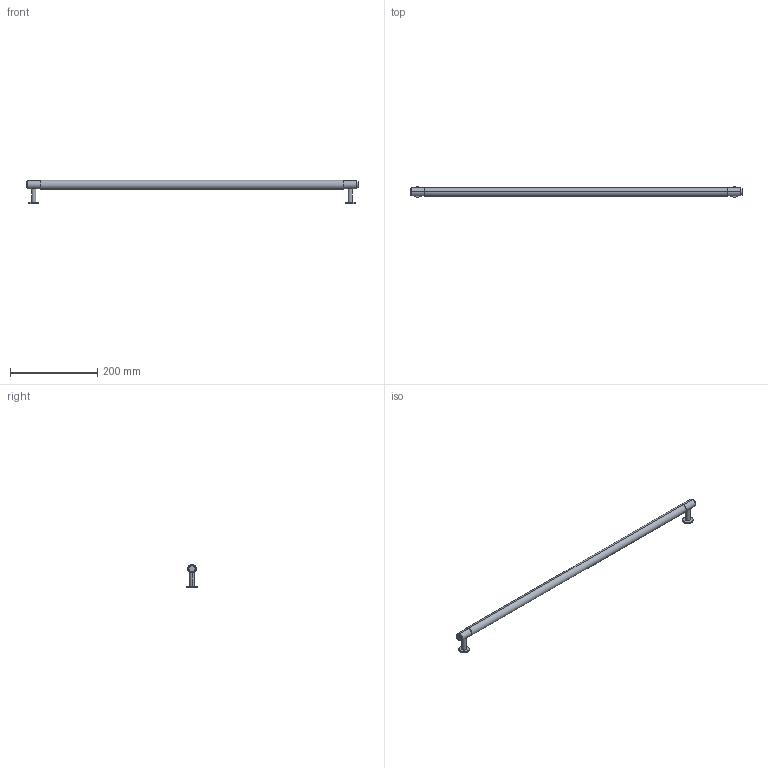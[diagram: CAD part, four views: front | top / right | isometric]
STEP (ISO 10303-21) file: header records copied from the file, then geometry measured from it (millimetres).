
FILE_DESCRIPTION (( 'STEP AP203' ), '1' );
FILE_NAME ('Pull Bar 800.STEP', '2016-10-12T14:14:59', ( '' ), ( '' ), 'SwSTEP 2.0', 'SolidWorks 2014', '' );
FILE_SCHEMA (( 'CONFIG_CONTROL_DESIGN' ));
Length unit declared in the file: millimetre
Products named in the file (1): Pull Bar 800
Bounding box: 760 x 24 x 53 mm (x, y, z)
Volume: 242512 mm3; surface area: 51887.7 mm2
Topology: 1 solids, 1 shells, 28 faces, 56 edges, 36 vertices
Faces by surface type: cylinder 18, plane 10
Entity records: 957 total; most frequent: CARTESIAN_POINT 269, DIRECTION 142, ORIENTED_EDGE 112, AXIS2_PLACEMENT_3D 61, EDGE_CURVE 56, VERTEX_POINT 36, EDGE_LOOP 34, CIRCLE 32
